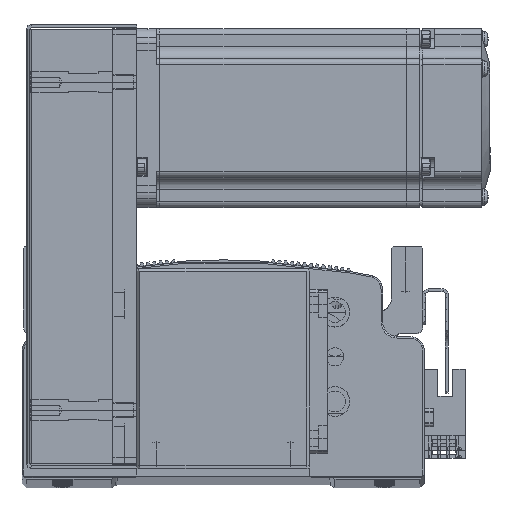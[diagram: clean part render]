
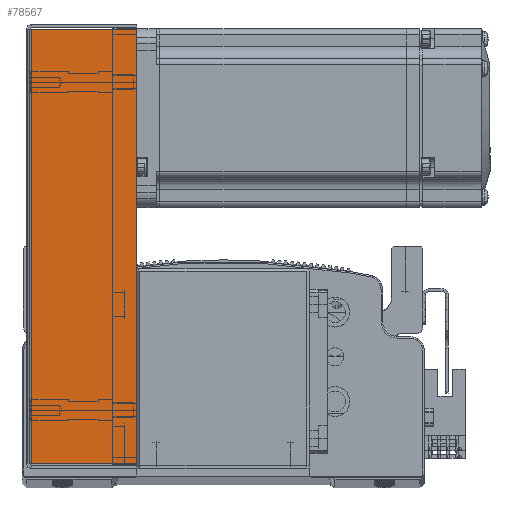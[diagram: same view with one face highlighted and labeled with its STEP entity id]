
A CAD part, top view. The second image highlights one B-rep face of the part: STEP entity #78567.
In plain terms, the highlighted planar face has unit normal (0, 0, 1).
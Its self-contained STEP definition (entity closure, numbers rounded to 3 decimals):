
#5018 = DIRECTION ( 'NONE',  ( 0., 1., 0. ) ) ;
#5024 = CARTESIAN_POINT ( 'NONE',  ( 72.793, 0., 34.5 ) ) ;
#5053 = DIRECTION ( 'NONE',  ( -1., 0., 0. ) ) ;
#9400 = CARTESIAN_POINT ( 'NONE',  ( -72.793, 0., 34.5 ) ) ;
#9406 = DIRECTION ( 'NONE',  ( 0., 1., 0. ) ) ;
#9439 = DIRECTION ( 'NONE',  ( -1., 0., 0. ) ) ;
#9448 = CARTESIAN_POINT ( 'NONE',  ( -74.5, 0.737, 34.5 ) ) ;
#12717 = VECTOR ( 'NONE', #5018, 1000. ) ;
#12718 = VECTOR ( 'NONE', #5053, 1000. ) ;
#12740 = VECTOR ( 'NONE', #9439, 1000. ) ;
#12752 = LINE ( 'NONE', #82713, #12718 ) ;
#12769 = LINE ( 'NONE', #9400, #12778 ) ;
#12778 = VECTOR ( 'NONE', #9406, 1000. ) ;
#12780 = LINE ( 'NONE', #9448, #12740 ) ;
#12792 = LINE ( 'NONE', #5024, #12717 ) ;
#13259 = AXIS2_PLACEMENT_3D ( 'NONE', #57311, #57322, #57326 ) ;
#57309 = PLANE ( 'NONE',  #13259 ) ;
#57311 = CARTESIAN_POINT ( 'NONE',  ( 0., 0., 34.5 ) ) ;
#57322 = DIRECTION ( 'NONE',  ( 0., 0., -1. ) ) ;
#57326 = DIRECTION ( 'NONE',  ( -1., 0., 0. ) ) ;
#65663 = ORIENTED_EDGE ( 'NONE', *, *, #74387, .T. ) ;
#65708 = ORIENTED_EDGE ( 'NONE', *, *, #74366, .F. ) ;
#65751 = ORIENTED_EDGE ( 'NONE', *, *, #74395, .T. ) ;
#65759 = ORIENTED_EDGE ( 'NONE', *, *, #74373, .F. ) ;
#68856 = CARTESIAN_POINT ( 'NONE',  ( 72.793, 0.737, 34.5 ) ) ;
#68912 = CARTESIAN_POINT ( 'NONE',  ( -72.793, 36., 34.5 ) ) ;
#68914 = CARTESIAN_POINT ( 'NONE',  ( 72.793, 36., 34.5 ) ) ;
#69239 = CARTESIAN_POINT ( 'NONE',  ( -72.793, 0.737, 34.5 ) ) ;
#70615 = FACE_OUTER_BOUND ( 'NONE', #77630, .T. ) ;
#74366 = EDGE_CURVE ( 'NONE', #76930, #76891, #12769, .T. ) ;
#74373 = EDGE_CURVE ( 'NONE', #76868, #76930, #12780, .T. ) ;
#74387 = EDGE_CURVE ( 'NONE', #76893, #76891, #12752, .T. ) ;
#74395 = EDGE_CURVE ( 'NONE', #76868, #76893, #12792, .T. ) ;
#76868 = VERTEX_POINT ( 'NONE', #68856 ) ;
#76891 = VERTEX_POINT ( 'NONE', #68912 ) ;
#76893 = VERTEX_POINT ( 'NONE', #68914 ) ;
#76930 = VERTEX_POINT ( 'NONE', #69239 ) ;
#77630 = EDGE_LOOP ( 'NONE', ( #65759, #65751, #65663, #65708 ) ) ;
#78567 = ADVANCED_FACE ( 'NONE', ( #70615 ), #57309, .F. ) ;
#82713 = CARTESIAN_POINT ( 'NONE',  ( 0., 36., 34.5 ) ) ;
